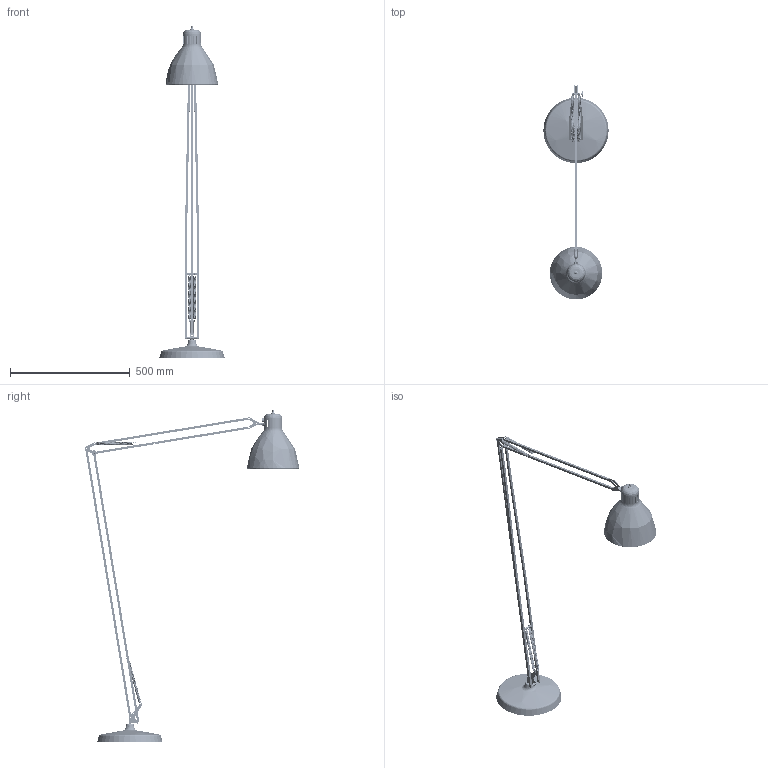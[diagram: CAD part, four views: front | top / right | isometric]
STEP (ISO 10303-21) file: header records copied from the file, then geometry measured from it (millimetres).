
FILE_DESCRIPTION(/* description */ (''),/* implementation_level */ '2;1');
FILE_NAME(/* name */ 'C:\Users\matteo.garelli\Desktop\JJ MID FLOOR 1.stp',/* time_stamp */ '2021-05-11T16:29:44+02:00',/* author */ ('matteo.garelli'),/* organization */ (''),/* preprocessor_version */ 'ST-DEVELOPER v18.1',/* originating_system */ 'Autodesk Inventor 2020',/* authorisation */ '');
FILE_SCHEMA (('AUTOMOTIVE_DESIGN { 1 0 10303 214 3 1 1 }'));
Length unit declared in the file: millimetre
Products named in the file (1): JJ MID FLOOR
Bounding box: 273.1 x 898.3 x 1387.93 mm (x, y, z)
Volume: 337092.5 mm3; surface area: 878123.1 mm2
Topology: 14 solids, 14 shells, 972 faces, 2731 edges, 1839 vertices
Faces by surface type: plane 397, cylinder 350, bspline 100, torus 92, cone 26, sphere 7
Full cylindrical faces by diameter (mm): 2 x2, 2.459 x1, 2.5 x2, 3 x3, 4 x4, 4.134 x1, 4.2 x4, 5 x21, 5.2 x21, 5.5 x2, 5.75 x2, 5.9 x1, 6 x4, 6.3 x1, 7 x6, 7.2 x1, 8 x15, 8.5 x12, 8.917 x1, 9.5 x2, 10 x2, 11 x1, 12 x2, 16 x1, 17 x1, 73.5 x1, 75.5 x1, 150 x1, 216.004 x1, 270 x1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
Entity records: 190501 total; most frequent: CARTESIAN_POINT 164218, ORIENTED_EDGE 5450, DIRECTION 5067, EDGE_CURVE 2725, AXIS2_PLACEMENT_3D 1917, VERTEX_POINT 1839, LINE 1233, VECTOR 1233
